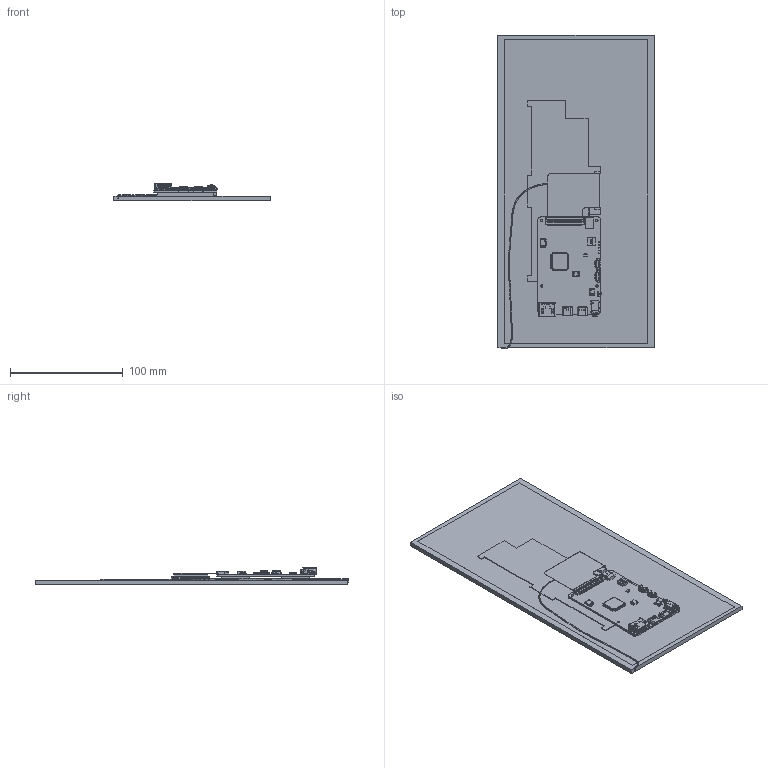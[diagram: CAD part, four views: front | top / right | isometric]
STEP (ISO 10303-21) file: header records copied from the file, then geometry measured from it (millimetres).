
FILE_DESCRIPTION((''),'2;1');
FILE_NAME('11_6INCH-1768X828-LCD_ASM','2026-05-11T17:43:28',('ag'),(''),'CREO PARAMETRIC BY PTC INC, 2021063','CREO PARAMETRIC BY PTC INC, 2021063','');
FILE_SCHEMA(('CONFIG_CONTROL_DESIGN','SHAPE_APPEARANCE_LAYERS_GROUPS'));
Products named in the file (22): 11_6INCH-LCD; HL2416_KICAD_PCB; USER_LIBRARY-SM02B-BHSS--237540; USER_LIBRARY-SM02B-BHSS--237517_ASM; 139111; 1_25MM_4P_90C_ASM; TS-1010-B-A-246552; LQFP_128_14X14MM_P04MM; SOIC_8_5275X5275MM_P127MM; SOIC_8_39X49MM_P127MM; USER_LIBRARY-06030; USER_LIBRARY-USB_TYPE_C_-282_15; SOT_23_5; CUI_DEVICES_SJ2-35894D-S-3062_2; 47151-0001_1; FH28-60S-0_5SH_0001; DX07S024JJ7R1200_1_6; SSOP-10_L5_0-W3_9-P1_00--265_11; PCB-HL2416_KICAD_3D_ASM; 00; 11_6INCH-1768X828-LCD_ASM
Assembly tree (23 placements, depth 4):
  11_6INCH-1768X828-LCD_ASM
    11_6INCH-LCD
    PCB-HL2416_KICAD_3D_ASM
      HL2416_KICAD_PCB
      USER_LIBRARY-SM02B-BHSS--237517_ASM
        USER_LIBRARY-SM02B-BHSS--237540
      1_25MM_4P_90C_ASM  x2
        139111
      TS-1010-B-A-246552
      LQFP_128_14X14MM_P04MM
      SOIC_8_5275X5275MM_P127MM
      SOIC_8_39X49MM_P127MM
      USER_LIBRARY-06030
      USER_LIBRARY-USB_TYPE_C_-282_15
      SOT_23_5
      CUI_DEVICES_SJ2-35894D-S-3062_2
      47151-0001_1
      FH28-60S-0_5SH_0001
      DX07S024JJ7R1200_1_6
      SSOP-10_L5_0-W3_9-P1_00--265_11
    00  x2
    00
Bounding box: 139.1 x 278.9 x 15.43 mm (x, y, z)
Volume: 179278.1 mm3; surface area: 108588.5 mm2
Topology: 33 solids, 47 shells, 9234 faces, 26212 edges, 17255 vertices
Faces by surface type: plane 7027, cylinder 1850, extrusion 230, cone 50, sphere 28, torus 26, bspline 23
Entity records: 329119 total; most frequent: CARTESIAN_POINT 63058, ORIENTED_EDGE 50512, DIRECTION 46269, EDGE_CURVE 25290, VECTOR 21167, LINE 20937, VERTEX_POINT 16453, AXIS2_PLACEMENT_3D 12551
